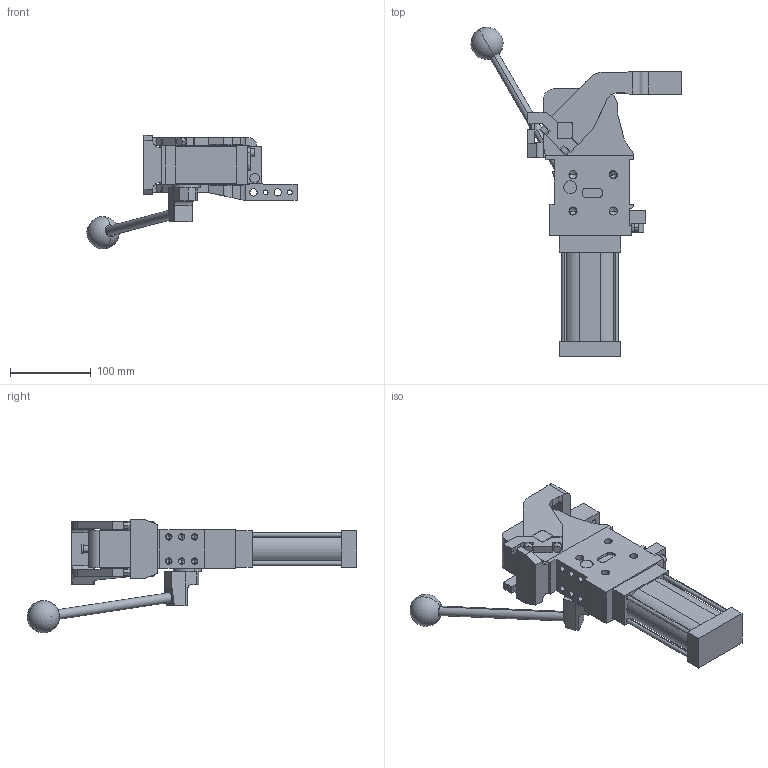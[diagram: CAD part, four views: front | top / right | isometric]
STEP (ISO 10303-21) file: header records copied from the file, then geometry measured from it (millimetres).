
FILE_DESCRIPTION (( 'STEP AP214' ), '1' );
FILE_NAME ('cplm50lbtv3dsi1g_26.STEP', '2023-01-26T14:02:57', ( '' ), ( '' ), 'SwSTEP 2.0', 'SolidWorks 2022', '' );
FILE_SCHEMA (( 'AUTOMOTIVE_DESIGN' ));
Length unit declared in the file: millimetre
Products named in the file (5): comando_manuale_cplm_50; blocchetto_VEP_0; leva_v3ds_cpl50t; cplm50lbtv3dsi1g_26; meccanica_cplm_50_tassello_esterno
Assembly tree (4 placements, depth 2):
  cplm50lbtv3dsi1g_26
    meccanica_cplm_50_tassello_esterno
    blocchetto_VEP_0
    leva_v3ds_cpl50t
    comando_manuale_cplm_50
Bounding box: 260.54 x 408.46 x 141 mm (x, y, z)
Volume: 1523899.2 mm3; surface area: 194398.9 mm2
Topology: 4 solids, 4 shells, 470 faces, 1219 edges, 765 vertices
Faces by surface type: plane 245, cylinder 173, cone 50, sphere 2
Entity records: 15621 total; most frequent: CARTESIAN_POINT 2510, DIRECTION 2469, ORIENTED_EDGE 2336, EDGE_CURVE 1168, AXIS2_PLACEMENT_3D 839, LINE 791, VECTOR 791, VERTEX_POINT 762
